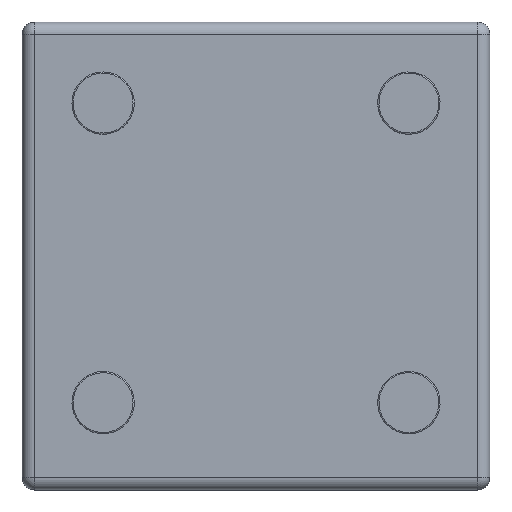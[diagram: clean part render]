
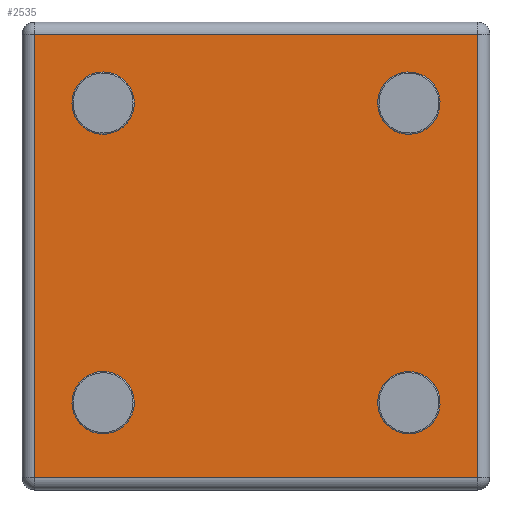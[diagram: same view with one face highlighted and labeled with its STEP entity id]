
A CAD part, front view. The second image highlights one B-rep face of the part: STEP entity #2535.
In plain terms, the highlighted planar face has unit normal (0, -1, 0).
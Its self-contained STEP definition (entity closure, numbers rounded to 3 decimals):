
#47=FACE_BOUND('',#397,.T.);
#48=FACE_BOUND('',#398,.T.);
#49=FACE_BOUND('',#399,.T.);
#50=FACE_BOUND('',#400,.T.);
#113=PLANE('',#2802);
#235=FACE_OUTER_BOUND('',#396,.T.);
#396=EDGE_LOOP('',(#2168,#2169,#2170,#2171));
#397=EDGE_LOOP('',(#2172,#2173));
#398=EDGE_LOOP('',(#2174,#2175));
#399=EDGE_LOOP('',(#2176,#2177));
#400=EDGE_LOOP('',(#2178,#2179));
#613=LINE('',#4338,#824);
#614=LINE('',#4340,#825);
#615=LINE('',#4342,#826);
#616=LINE('',#4343,#827);
#824=VECTOR('',#3487,10.);
#825=VECTOR('',#3488,10.);
#826=VECTOR('',#3489,10.);
#827=VECTOR('',#3490,10.);
#955=CIRCLE('',#2789,4.8);
#959=CIRCLE('',#2793,4.8);
#965=CIRCLE('',#2803,4.8);
#966=CIRCLE('',#2804,4.8);
#967=CIRCLE('',#2805,4.8);
#968=CIRCLE('',#2806,4.8);
#969=CIRCLE('',#2807,4.8);
#970=CIRCLE('',#2808,4.8);
#1187=VERTEX_POINT('',#4313);
#1188=VERTEX_POINT('',#4314);
#1195=VERTEX_POINT('',#4336);
#1196=VERTEX_POINT('',#4337);
#1197=VERTEX_POINT('',#4339);
#1198=VERTEX_POINT('',#4341);
#1199=VERTEX_POINT('',#4344);
#1200=VERTEX_POINT('',#4345);
#1201=VERTEX_POINT('',#4348);
#1202=VERTEX_POINT('',#4349);
#1203=VERTEX_POINT('',#4352);
#1204=VERTEX_POINT('',#4353);
#1522=EDGE_CURVE('',#1187,#1188,#955,.T.);
#1526=EDGE_CURVE('',#1188,#1187,#959,.T.);
#1533=EDGE_CURVE('',#1195,#1196,#613,.T.);
#1534=EDGE_CURVE('',#1197,#1195,#614,.T.);
#1535=EDGE_CURVE('',#1198,#1197,#615,.T.);
#1536=EDGE_CURVE('',#1196,#1198,#616,.T.);
#1537=EDGE_CURVE('',#1199,#1200,#965,.T.);
#1538=EDGE_CURVE('',#1200,#1199,#966,.T.);
#1539=EDGE_CURVE('',#1201,#1202,#967,.T.);
#1540=EDGE_CURVE('',#1202,#1201,#968,.T.);
#1541=EDGE_CURVE('',#1203,#1204,#969,.T.);
#1542=EDGE_CURVE('',#1204,#1203,#970,.T.);
#2168=ORIENTED_EDGE('',*,*,#1533,.F.);
#2169=ORIENTED_EDGE('',*,*,#1534,.F.);
#2170=ORIENTED_EDGE('',*,*,#1535,.F.);
#2171=ORIENTED_EDGE('',*,*,#1536,.F.);
#2172=ORIENTED_EDGE('',*,*,#1537,.F.);
#2173=ORIENTED_EDGE('',*,*,#1538,.F.);
#2174=ORIENTED_EDGE('',*,*,#1539,.F.);
#2175=ORIENTED_EDGE('',*,*,#1540,.F.);
#2176=ORIENTED_EDGE('',*,*,#1541,.F.);
#2177=ORIENTED_EDGE('',*,*,#1542,.F.);
#2178=ORIENTED_EDGE('',*,*,#1522,.F.);
#2179=ORIENTED_EDGE('',*,*,#1526,.F.);
#2535=ADVANCED_FACE('',(#235,#47,#48,#49,#50),#113,.F.);
#2789=AXIS2_PLACEMENT_3D('',#4315,#3458,#3459);
#2793=AXIS2_PLACEMENT_3D('',#4321,#3466,#3467);
#2802=AXIS2_PLACEMENT_3D('',#4335,#3485,#3486);
#2803=AXIS2_PLACEMENT_3D('',#4346,#3491,#3492);
#2804=AXIS2_PLACEMENT_3D('',#4347,#3493,#3494);
#2805=AXIS2_PLACEMENT_3D('',#4350,#3495,#3496);
#2806=AXIS2_PLACEMENT_3D('',#4351,#3497,#3498);
#2807=AXIS2_PLACEMENT_3D('',#4354,#3499,#3500);
#2808=AXIS2_PLACEMENT_3D('',#4355,#3501,#3502);
#3458=DIRECTION('center_axis',(0.,-1.,0.));
#3459=DIRECTION('ref_axis',(0.,0.,1.));
#3466=DIRECTION('center_axis',(0.,-1.,0.));
#3467=DIRECTION('ref_axis',(0.,0.,1.));
#3485=DIRECTION('center_axis',(0.,1.,0.));
#3486=DIRECTION('ref_axis',(0.,0.,1.));
#3487=DIRECTION('',(0.,0.,1.));
#3488=DIRECTION('',(-1.,0.,0.));
#3489=DIRECTION('',(0.,0.,-1.));
#3490=DIRECTION('',(1.,0.,0.));
#3491=DIRECTION('center_axis',(0.,-1.,0.));
#3492=DIRECTION('ref_axis',(0.,0.,1.));
#3493=DIRECTION('center_axis',(0.,-1.,0.));
#3494=DIRECTION('ref_axis',(0.,0.,1.));
#3495=DIRECTION('center_axis',(0.,-1.,0.));
#3496=DIRECTION('ref_axis',(0.,0.,1.));
#3497=DIRECTION('center_axis',(0.,-1.,0.));
#3498=DIRECTION('ref_axis',(0.,0.,1.));
#3499=DIRECTION('center_axis',(0.,-1.,0.));
#3500=DIRECTION('ref_axis',(0.,0.,1.));
#3501=DIRECTION('center_axis',(0.,-1.,0.));
#3502=DIRECTION('ref_axis',(0.,0.,1.));
#4313=CARTESIAN_POINT('',(194.615,-16.174,-3.803));
#4314=CARTESIAN_POINT('',(189.294,-16.174,-8.018));
#4315=CARTESIAN_POINT('Origin',(189.847,-16.174,-3.25));
#4321=CARTESIAN_POINT('Origin',(189.847,-16.174,-3.25));
#4335=CARTESIAN_POINT('Origin',(165.347,-16.174,-27.75));
#4336=CARTESIAN_POINT('',(129.847,-16.174,-63.25));
#4337=CARTESIAN_POINT('',(129.847,-16.174,7.75));
#4338=CARTESIAN_POINT('',(129.847,-16.174,-46.5));
#4339=CARTESIAN_POINT('',(200.847,-16.174,-63.25));
#4340=CARTESIAN_POINT('',(184.097,-16.174,-63.25));
#4341=CARTESIAN_POINT('',(200.847,-16.174,7.75));
#4342=CARTESIAN_POINT('',(200.847,-16.174,-9.));
#4343=CARTESIAN_POINT('',(146.597,-16.174,7.75));
#4344=CARTESIAN_POINT('',(145.586,-16.174,-52.012));
#4345=CARTESIAN_POINT('',(140.085,-16.174,-55.989));
#4346=CARTESIAN_POINT('Origin',(140.847,-16.174,-51.25));
#4347=CARTESIAN_POINT('Origin',(140.847,-16.174,-51.25));
#4348=CARTESIAN_POINT('',(194.237,-16.174,-53.191));
#4349=CARTESIAN_POINT('',(187.906,-16.174,-55.64));
#4350=CARTESIAN_POINT('Origin',(189.847,-16.174,-51.25));
#4351=CARTESIAN_POINT('Origin',(189.847,-16.174,-51.25));
#4352=CARTESIAN_POINT('',(143.245,-16.174,0.908));
#4353=CARTESIAN_POINT('',(145.005,-16.174,-5.648));
#4354=CARTESIAN_POINT('Origin',(140.847,-16.174,-3.25));
#4355=CARTESIAN_POINT('Origin',(140.847,-16.174,-3.25));
